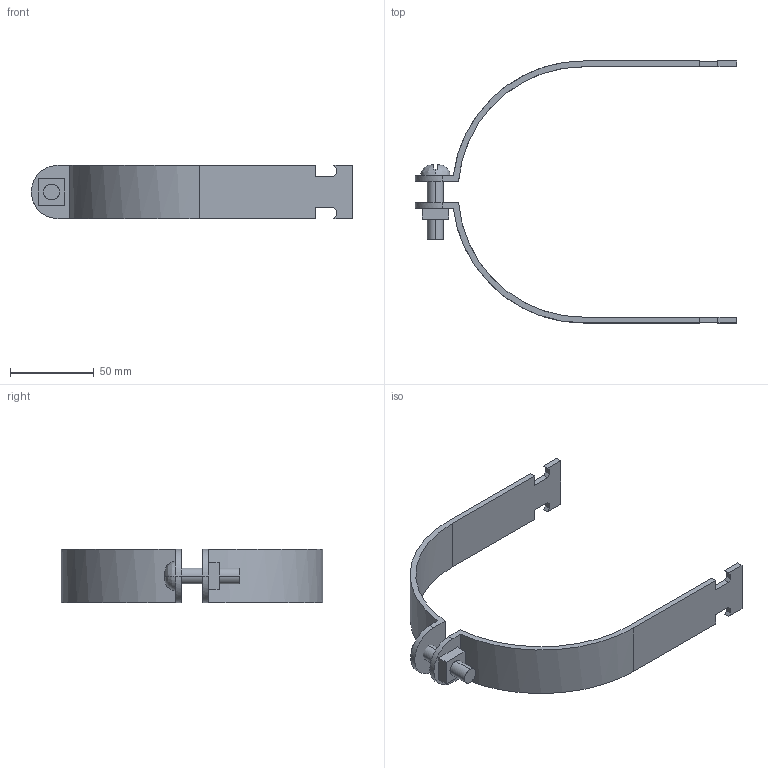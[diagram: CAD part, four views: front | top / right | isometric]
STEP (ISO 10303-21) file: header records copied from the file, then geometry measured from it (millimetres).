
FILE_DESCRIPTION(('TurboCAD Mac Pro'),'Build 980');
FILE_NAME('P2069.stp',' ',(''),(''),'ACIS Interop','IMSI','TurboCAD Mac Pro BY IMSI, INCORPORATED');
FILE_SCHEMA(('automotive_design'));
Length unit declared in the file: inch
Products named in the file (5): 1; 2; 3; 4; 5
Bounding box: 191.3 x 156.01 x 31.75 mm (x, y, z)
Volume: 52476.2 mm3; surface area: 34224.4 mm2
Topology: 4 solids, 4 shells, 71 faces, 186 edges, 124 vertices
Faces by surface type: plane 51, bspline 20
Entity records: 3487 total; most frequent: CARTESIAN_POINT 1050, ORIENTED_EDGE 372, DIRECTION 258, EDGE_CURVE 186, LINE 138, VECTOR 138, VERTEX_POINT 124, STYLED_ITEM 91
